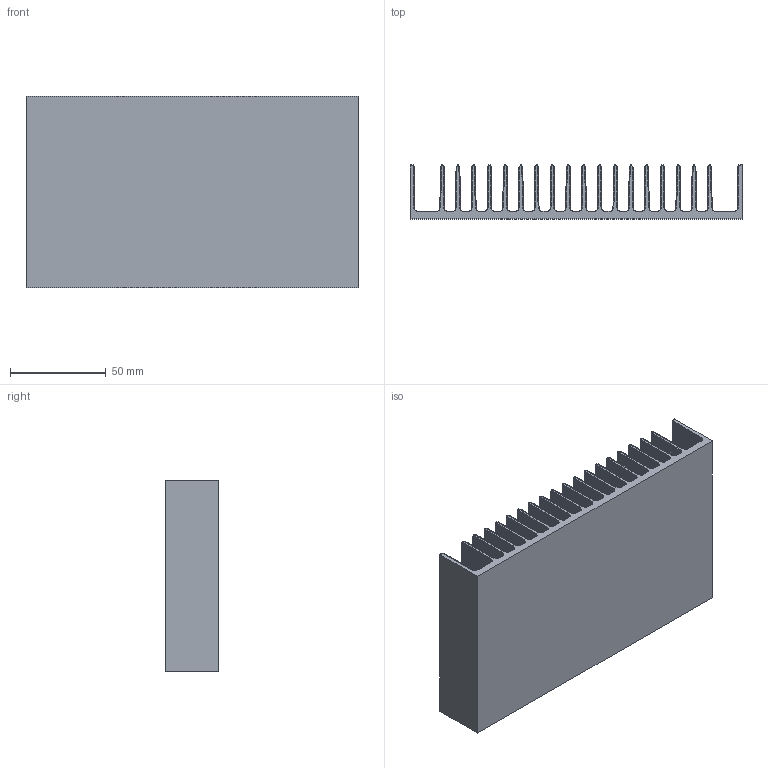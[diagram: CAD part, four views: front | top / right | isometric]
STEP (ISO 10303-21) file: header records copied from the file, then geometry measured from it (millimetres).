
FILE_DESCRIPTION (( 'STEP AP214' ), '1' );
FILE_NAME ('PR385.STEP', '2013-07-08T12:49:52', ( '' ), ( '' ), 'SwSTEP 2.0', 'SolidWorks 2013', '' );
FILE_SCHEMA (( 'AUTOMOTIVE_DESIGN' ));
Length unit declared in the file: millimetre
Products named in the file (1): PR385
Bounding box: 173 x 28 x 100 mm (x, y, z)
Volume: 156173.5 mm3; surface area: 215220.6 mm2
Topology: 1 solids, 1 shells, 3130 faces, 9384 edges, 6256 vertices
Faces by surface type: plane 3092, cylinder 38
Entity records: 103358 total; most frequent: CARTESIAN_POINT 18771, ORIENTED_EDGE 18768, DIRECTION 15722, EDGE_CURVE 9384, VECTOR 9308, LINE 9308, VERTEX_POINT 6256, AXIS2_PLACEMENT_3D 3207
